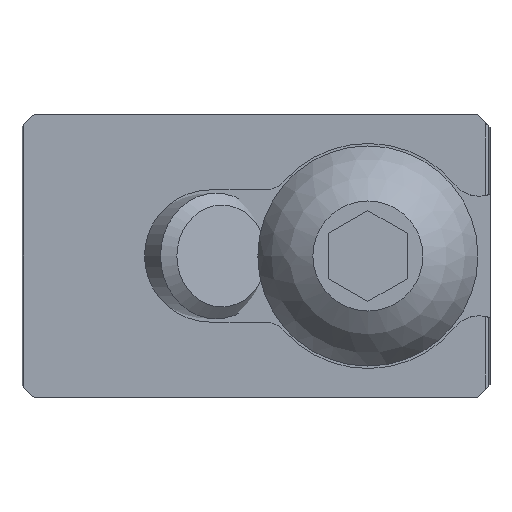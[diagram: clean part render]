
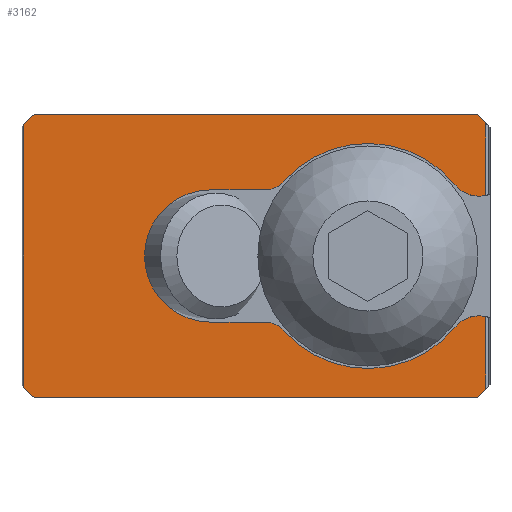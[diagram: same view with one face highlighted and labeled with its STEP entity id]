
A CAD part, front view. The second image highlights one B-rep face of the part: STEP entity #3162.
In plain terms, the highlighted planar face has unit normal (0, -1, 0).
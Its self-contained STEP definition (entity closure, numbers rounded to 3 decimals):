
#55=CIRCLE('',#3338,1.993);
#56=CIRCLE('',#3339,7.157);
#57=CIRCLE('',#3340,1.493);
#58=CIRCLE('',#3341,4.207);
#59=CIRCLE('',#3342,1.493);
#60=CIRCLE('',#3343,7.157);
#61=CIRCLE('',#3344,1.993);
#191=ORIENTED_EDGE('',*,*,#1135,.T.);
#192=ORIENTED_EDGE('',*,*,#1137,.F.);
#193=ORIENTED_EDGE('',*,*,#1138,.T.);
#194=ORIENTED_EDGE('',*,*,#1139,.F.);
#195=ORIENTED_EDGE('',*,*,#1140,.F.);
#196=ORIENTED_EDGE('',*,*,#1141,.F.);
#197=ORIENTED_EDGE('',*,*,#1142,.F.);
#198=ORIENTED_EDGE('',*,*,#1143,.F.);
#199=ORIENTED_EDGE('',*,*,#1144,.T.);
#200=ORIENTED_EDGE('',*,*,#1145,.F.);
#201=ORIENTED_EDGE('',*,*,#1146,.T.);
#202=ORIENTED_EDGE('',*,*,#1147,.F.);
#203=ORIENTED_EDGE('',*,*,#1148,.T.);
#204=ORIENTED_EDGE('',*,*,#1149,.T.);
#205=ORIENTED_EDGE('',*,*,#1150,.T.);
#206=ORIENTED_EDGE('',*,*,#1151,.F.);
#207=ORIENTED_EDGE('',*,*,#1152,.T.);
#208=ORIENTED_EDGE('',*,*,#1153,.T.);
#1135=EDGE_CURVE('',#1609,#1608,#1925,.T.);
#1137=EDGE_CURVE('',#1610,#1608,#1926,.T.);
#1138=EDGE_CURVE('',#1610,#1611,#1927,.T.);
#1139=EDGE_CURVE('',#1612,#1611,#1928,.T.);
#1140=EDGE_CURVE('',#1613,#1612,#1929,.T.);
#1141=EDGE_CURVE('',#1614,#1613,#1930,.T.);
#1142=EDGE_CURVE('',#1615,#1614,#1931,.T.);
#1143=EDGE_CURVE('',#1616,#1615,#1932,.T.);
#1144=EDGE_CURVE('',#1616,#1617,#1933,.T.);
#1145=EDGE_CURVE('',#1618,#1617,#55,.T.);
#1146=EDGE_CURVE('',#1618,#1619,#56,.T.);
#1147=EDGE_CURVE('',#1620,#1619,#57,.T.);
#1148=EDGE_CURVE('',#1620,#1621,#1934,.T.);
#1149=EDGE_CURVE('',#1621,#1622,#58,.T.);
#1150=EDGE_CURVE('',#1622,#1623,#1935,.T.);
#1151=EDGE_CURVE('',#1624,#1623,#59,.T.);
#1152=EDGE_CURVE('',#1624,#1625,#60,.T.);
#1153=EDGE_CURVE('',#1625,#1609,#61,.F.);
#1608=VERTEX_POINT('',#4427);
#1609=VERTEX_POINT('',#4429);
#1610=VERTEX_POINT('',#4436);
#1611=VERTEX_POINT('',#4438);
#1612=VERTEX_POINT('',#4440);
#1613=VERTEX_POINT('',#4442);
#1614=VERTEX_POINT('',#4444);
#1615=VERTEX_POINT('',#4446);
#1616=VERTEX_POINT('',#4448);
#1617=VERTEX_POINT('',#4450);
#1618=VERTEX_POINT('',#4452);
#1619=VERTEX_POINT('',#4454);
#1620=VERTEX_POINT('',#4456);
#1621=VERTEX_POINT('',#4458);
#1622=VERTEX_POINT('',#4460);
#1623=VERTEX_POINT('',#4462);
#1624=VERTEX_POINT('',#4464);
#1625=VERTEX_POINT('',#4466);
#1925=LINE('',#4428,#2300);
#1926=LINE('',#4435,#2301);
#1927=LINE('',#4437,#2302);
#1928=LINE('',#4439,#2303);
#1929=LINE('',#4441,#2304);
#1930=LINE('',#4443,#2305);
#1931=LINE('',#4445,#2306);
#1932=LINE('',#4447,#2307);
#1933=LINE('',#4449,#2308);
#1934=LINE('',#4457,#2309);
#1935=LINE('',#4461,#2310);
#2300=VECTOR('',#3576,1000.);
#2301=VECTOR('',#3579,1000.);
#2302=VECTOR('',#3580,1000.);
#2303=VECTOR('',#3581,1000.);
#2304=VECTOR('',#3582,1000.);
#2305=VECTOR('',#3583,1000.);
#2306=VECTOR('',#3584,1000.);
#2307=VECTOR('',#3585,1000.);
#2308=VECTOR('',#3586,1000.);
#2309=VECTOR('',#3593,1000.);
#2310=VECTOR('',#3596,1000.);
#2671=EDGE_LOOP('',(#191,#192,#193,#194,#195,#196,#197,#198,#199,#200,#201,
#202,#203,#204,#205,#206,#207,#208));
#2858=FACE_BOUND('',#2671,.T.);
#3043=PLANE('',#3337);
#3162=ADVANCED_FACE('',(#2858),#3043,.F.);
#3337=AXIS2_PLACEMENT_3D('',#4434,#3577,#3578);
#3338=AXIS2_PLACEMENT_3D('',#4451,#3587,#3588);
#3339=AXIS2_PLACEMENT_3D('',#4453,#3589,#3590);
#3340=AXIS2_PLACEMENT_3D('',#4455,#3591,#3592);
#3341=AXIS2_PLACEMENT_3D('',#4459,#3594,#3595);
#3342=AXIS2_PLACEMENT_3D('',#4463,#3597,#3598);
#3343=AXIS2_PLACEMENT_3D('',#4465,#3599,#3600);
#3344=AXIS2_PLACEMENT_3D('',#4467,#3601,#3602);
#3576=DIRECTION('',(0.,0.,-1.));
#3577=DIRECTION('',(0.,1.,0.));
#3578=DIRECTION('',(0.,0.,1.));
#3579=DIRECTION('',(-0.707,0.,0.707));
#3580=DIRECTION('',(1.,0.,0.));
#3581=DIRECTION('',(-0.707,0.,-0.707));
#3582=DIRECTION('',(0.,0.,-1.));
#3583=DIRECTION('',(0.707,0.,-0.707));
#3584=DIRECTION('',(1.,0.,0.));
#3585=DIRECTION('',(0.707,0.,0.707));
#3586=DIRECTION('',(0.,0.,-1.));
#3587=DIRECTION('',(0.,1.,0.));
#3588=DIRECTION('',(1.,0.,0.));
#3589=DIRECTION('',(0.,1.,0.));
#3590=DIRECTION('',(1.,0.,0.));
#3591=DIRECTION('',(0.,1.,0.));
#3592=DIRECTION('',(1.,0.,0.));
#3593=DIRECTION('',(1.,0.,0.));
#3594=DIRECTION('',(0.,1.,0.));
#3595=DIRECTION('',(1.,0.,0.));
#3596=DIRECTION('',(-1.,0.,0.));
#3597=DIRECTION('',(0.,1.,0.));
#3598=DIRECTION('',(1.,0.,0.));
#3599=DIRECTION('',(0.,1.,0.));
#3600=DIRECTION('',(1.,0.,0.));
#3601=DIRECTION('',(0.,1.,0.));
#3602=DIRECTION('',(0.,0.,1.));
#4427=CARTESIAN_POINT('',(-7.5,0.,-8.466));
#4428=CARTESIAN_POINT('',(-7.5,0.,9.));
#4429=CARTESIAN_POINT('',(-7.5,0.,-3.852));
#4434=CARTESIAN_POINT('',(-7.5,0.,9.));
#4435=CARTESIAN_POINT('',(-6.966,0.,-9.));
#4436=CARTESIAN_POINT('',(-6.966,0.,-9.));
#4437=CARTESIAN_POINT('',(-7.5,0.,-9.));
#4438=CARTESIAN_POINT('',(21.234,0.,-9.));
#4439=CARTESIAN_POINT('',(22.034,0.,-8.2));
#4440=CARTESIAN_POINT('',(21.9,0.,-8.334));
#4441=CARTESIAN_POINT('',(21.9,0.,9.));
#4442=CARTESIAN_POINT('',(21.9,0.,8.334));
#4443=CARTESIAN_POINT('',(21.234,0.,9.));
#4444=CARTESIAN_POINT('',(21.234,0.,9.));
#4445=CARTESIAN_POINT('',(-7.5,0.,9.));
#4446=CARTESIAN_POINT('',(-6.966,0.,9.));
#4447=CARTESIAN_POINT('',(-7.766,0.,8.2));
#4448=CARTESIAN_POINT('',(-7.5,0.,8.466));
#4449=CARTESIAN_POINT('',(-7.5,0.,9.));
#4450=CARTESIAN_POINT('',(-7.5,0.,3.852));
#4451=CARTESIAN_POINT('',(-7.077,0.,5.8));
#4452=CARTESIAN_POINT('',(-5.535,0.,4.536));
#4453=CARTESIAN_POINT('',(0.,0.,0.));
#4454=CARTESIAN_POINT('',(5.377,0.,4.723));
#4455=CARTESIAN_POINT('',(6.506,0.,5.7));
#4456=CARTESIAN_POINT('',(6.506,0.,4.207));
#4457=CARTESIAN_POINT('',(6.506,0.,4.207));
#4458=CARTESIAN_POINT('',(10.,0.,4.207));
#4459=CARTESIAN_POINT('',(10.,0.,0.));
#4460=CARTESIAN_POINT('',(10.,0.,-4.207));
#4461=CARTESIAN_POINT('',(10.,0.,-4.207));
#4462=CARTESIAN_POINT('',(6.506,0.,-4.207));
#4463=CARTESIAN_POINT('',(6.506,0.,-5.7));
#4464=CARTESIAN_POINT('',(5.377,0.,-4.723));
#4465=CARTESIAN_POINT('',(0.,0.,0.));
#4466=CARTESIAN_POINT('',(-5.535,0.,-4.536));
#4467=CARTESIAN_POINT('',(-7.077,0.,-5.8));
